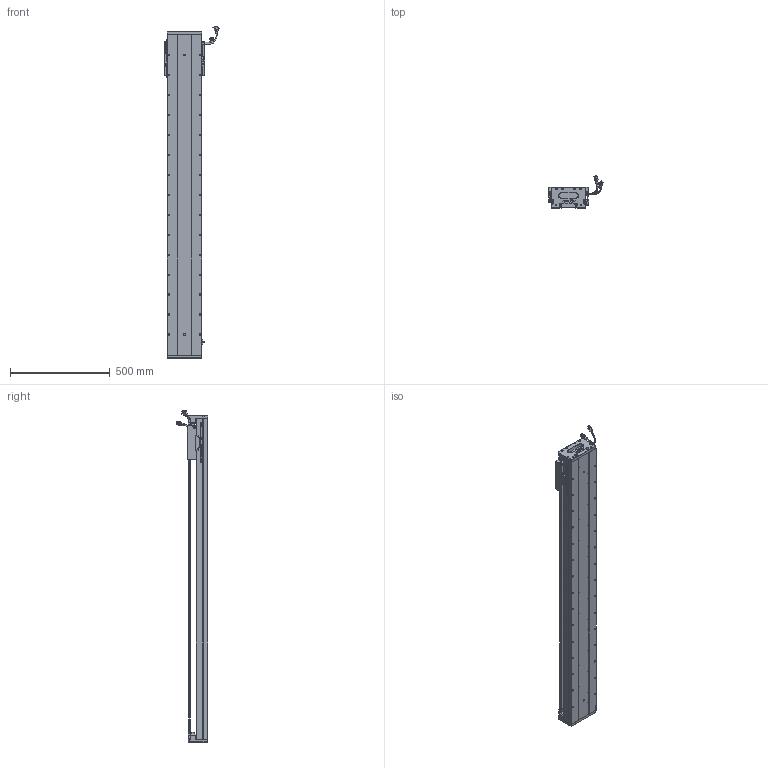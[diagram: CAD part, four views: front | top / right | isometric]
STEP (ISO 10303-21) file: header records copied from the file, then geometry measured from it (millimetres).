
FILE_DESCRIPTION (( 'STEP AP203' ), '1' );
FILE_NAME ('Z2-RY170D-1-L500-B-K.SLDASM_1350.step', '2021-05-17T09:08:04', ( '盈信电脑' ), ( '东莞市道滘镇水果街19号' ), 'SwSTEP 2.0', 'SolidWorks 2016', '' );
FILE_SCHEMA (( 'CONFIG_CONTROL_DESIGN' ));
Length unit declared in the file: millimetre
Products named in the file (36): 榋妏寠巭燃_暯_M2_2; Z2-RY170-L500詩湍145mm遵_1350; SCREW-M1.6-2; SEAL-Part-1; 170-Z-臏賑輸盄裔(21遴); SCREW-M1.6-1; COVER; HARNESS; SCALE-Part-2; HARNESS-Part-2; PBU_SHEET; PSLH080_PSLF2; LABEL; SEAL; Z2-RY170D-1-L500-B-K.SLDASM_1350; 080黍杅芛假蚾釱21遴; HOLDER0; LABEL-Part-1; Z2-RY170-L500耀郪菁釱_1350; SCREW-M1.7-1; SCREW-M1.6-3; SCALE-Part-1; SCREW-M1.7; Z-RY170詩湍狟揤裔; COVER-Part-1; 覜茼ん672; SHIELDPLATE; RY170直线电机感应器672光电感应片; 140雄赽晤鎢ん堤盄; Z-RY170詩湍奻揤裔; HARNESS-Part-1; SCREW-M1.6; SCALE; Z2-RY170臏賑輸(21遴); 140蚥薯蝶輸; Z-170詩湍傷裔啣
Assembly tree (41 placements, depth 4):
  Z2-RY170D-1-L500-B-K.SLDASM_1350
    Z2-RY170-L500耀郪菁釱_1350
    RY170直线电机感应器672光电感应片
    Z2-RY170臏賑輸(21遴)
    覜茼ん672  x3
    PSLH080_PSLF2
      SCALE
        SCALE-Part-1
        SCALE-Part-2
      HARNESS
        HARNESS-Part-1
        HARNESS-Part-2
      LABEL
        LABEL-Part-1
      COVER
        COVER-Part-1
      SEAL
        SEAL-Part-1
      榋妏寠巭燃_暯_M2_2
      SHIELDPLATE
      SCREW-M1.7
      SCREW-M1.7-1
      PBU_SHEET
      SCREW-M1.6
      SCREW-M1.6-1
      SCREW-M1.6-2
      SCREW-M1.6-3
      HOLDER0
    080黍杅芛假蚾釱21遴
    Z2-RY170-L500詩湍145mm遵_1350
    Z-170詩湍傷裔啣  x2
    Z-RY170詩湍奻揤裔  x2
    Z-RY170詩湍狟揤裔  x2
    140蚥薯蝶輸  x2
    170-Z-臏賑輸盄裔(21遴)
    140雄赽晤鎢ん堤盄
Bounding box: 275.33 x 158.11 x 1663.72 mm (x, y, z)
Volume: 8636818.3 mm3; surface area: 2121751.6 mm2
Topology: 36 solids, 36 shells, 3376 faces, 9147 edges, 5729 vertices
Faces by surface type: cylinder 1594, plane 1208, cone 452, torus 69, bspline 53
Entity records: 101535 total; most frequent: CARTESIAN_POINT 26746, ORIENTED_EDGE 14994, DIRECTION 14497, EDGE_CURVE 7497, AXIS2_PLACEMENT_3D 5322, VERTEX_POINT 4847, VECTOR 3853, LINE 3853
